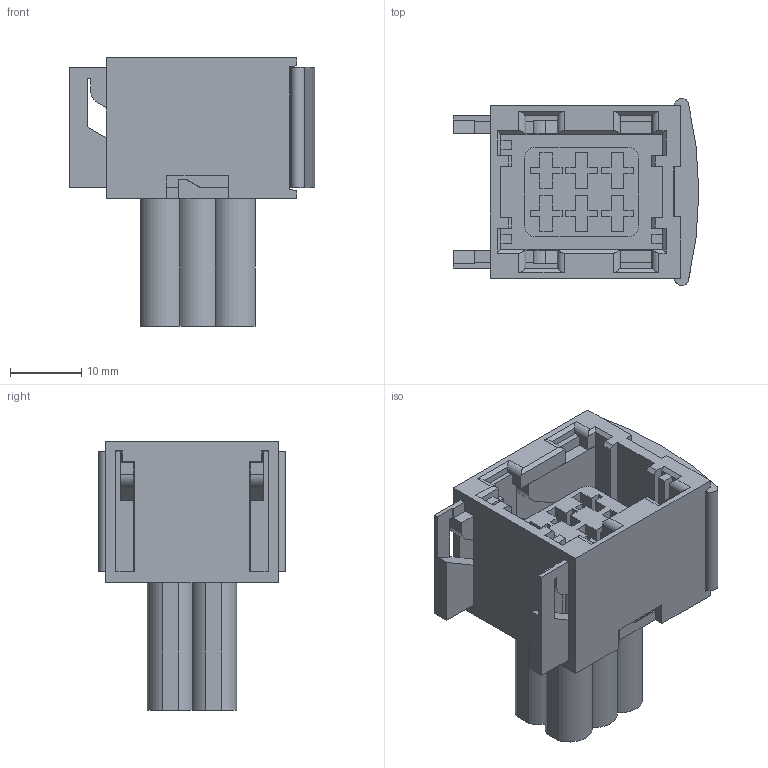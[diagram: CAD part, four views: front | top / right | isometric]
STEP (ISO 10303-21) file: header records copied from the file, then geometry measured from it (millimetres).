
FILE_DESCRIPTION((''),'2;1');
FILE_NAME('C-0967241-11-3-L','2007-09-02T',('workeradm'),('Tyco Electronics Corporation'),'PRO/ENGINEER BY PARAMETRIC TECHNOLOGY CORPORATION, 2005450','PRO/ENGINEER BY PARAMETRIC TECHNOLOGY CORPORATION, 2005450','');
FILE_SCHEMA(('CONFIG_CONTROL_DESIGN', 'GEOMETRIC_VALIDATION_PROPERTIES_MIM'));
Length unit declared in the file: millimetre
Products named in the file (1): C-0967241-11-3-L
Bounding box: 34.5 x 26.3 x 37.75 mm (x, y, z)
Volume: 10652.5 mm3; surface area: 12835.1 mm2
Topology: 1 solids, 1 shells, 496 faces, 1439 edges, 952 vertices
Faces by surface type: plane 441, cylinder 55
Entity records: 16378 total; most frequent: CARTESIAN_POINT 3048, ORIENTED_EDGE 2878, DIRECTION 2525, EDGE_CURVE 1439, VECTOR 1313, LINE 1313, VERTEX_POINT 952, AXIS2_PLACEMENT_3D 606
